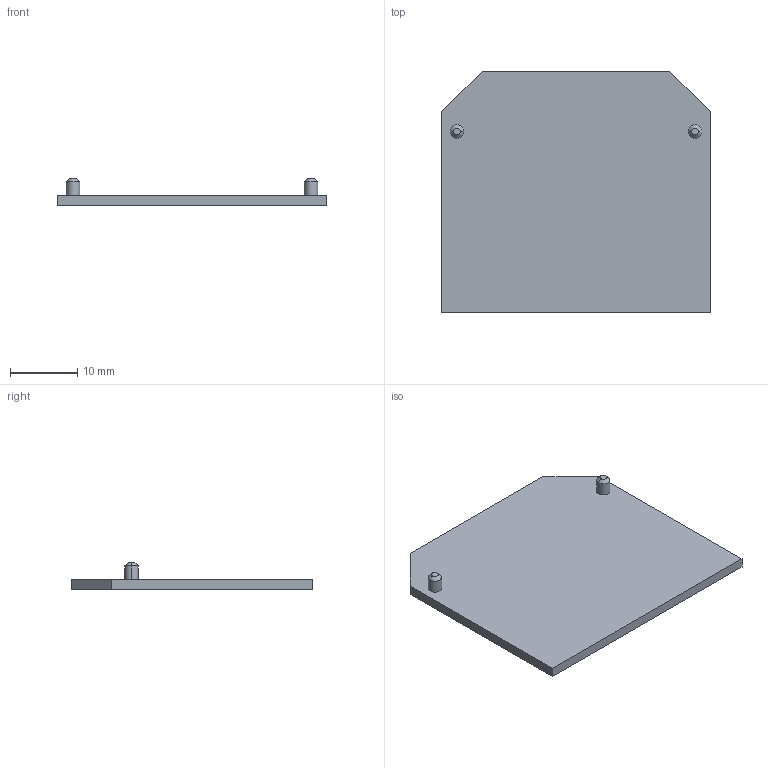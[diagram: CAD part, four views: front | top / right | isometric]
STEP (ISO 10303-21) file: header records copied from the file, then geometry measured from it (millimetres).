
FILE_DESCRIPTION(('Open CASCADE Model'),'2;1');
FILE_NAME('Open CASCADE Shape Model','2023-02-28T09:37:55',('Author'),( 'Open CASCADE'),'Open CASCADE STEP processor 6.5','Open CASCADE 6.5' ,'Unknown');
FILE_SCHEMA(('AUTOMOTIVE_DESIGN { 1 0 10303 214 1 1 1 1 }'));
Length unit declared in the file: millimetre
Products named in the file (19): CADSOFTTOOLS 2; CADSOFTTOOLS 2.1; CADSOFTTOOLS 2.2; CADSOFTTOOLS 2.3; CADSOFTTOOLS 2.4; CADSOFTTOOLS 2.5; CADSOFTTOOLS 2.6; CADSOFTTOOLS 2.7; CADSOFTTOOLS 2.8; CADSOFTTOOLS 2.9; CADSOFTTOOLS 2.10; CADSOFTTOOLS 2.11; CADSOFTTOOLS 2.12; CADSOFTTOOLS 2.13; CADSOFTTOOLS 2.14; CADSOFTTOOLS 2.15; CADSOFTTOOLS 2.16; CADSOFTTOOLS 2.17; CADSOFTTOOLS 2.18
Assembly tree (18 placements, depth 2):
  CADSOFTTOOLS 2
    CADSOFTTOOLS 2.1
    CADSOFTTOOLS 2.2
    CADSOFTTOOLS 2.3
    CADSOFTTOOLS 2.4
    CADSOFTTOOLS 2.5
    CADSOFTTOOLS 2.6
    CADSOFTTOOLS 2.7
    CADSOFTTOOLS 2.8
    CADSOFTTOOLS 2.9
    CADSOFTTOOLS 2.10
    CADSOFTTOOLS 2.11
    CADSOFTTOOLS 2.12
    CADSOFTTOOLS 2.13
    CADSOFTTOOLS 2.14
    CADSOFTTOOLS 2.15
    CADSOFTTOOLS 2.16
    CADSOFTTOOLS 2.17
    CADSOFTTOOLS 2.18
Bounding box: 40 x 36 x 4 mm (x, y, z)
Surface area: 3052.5 mm2 (no closed solid volume)
Topology: 0 solids, 18 shells, 18 faces, 76 edges, 76 vertices
Faces by surface type: plane 10, cone 4, cylinder 4
Entity records: 1858 total; most frequent: CARTESIAN_POINT 517, DIRECTION 212, LINE 88, VECTOR 88, ORIENTED_EDGE 76, EDGE_CURVE 76, VERTEX_POINT 76, SURFACE_CURVE 76
